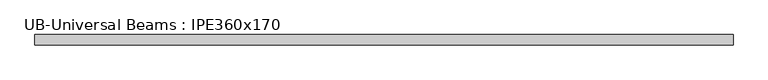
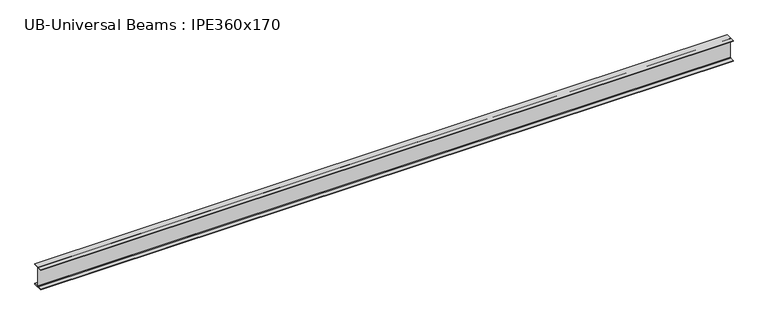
"""IFC4 building model written with IfcOpenShell, lengths in millimetres: beam geometry, UB-Universal Beams : IPE360x170."""

import ifcopenshell
import ifcopenshell.guid

model = None  # the IFC model being written
_history = None  # IfcOwnerHistory: only IFC2X3 demands one
_inside = {}  # id of a spatial element -> (the spatial element, [elements in it])
_under = {}  # id of a project, library or spatial element -> (it, [spatial elements below it])
_declared = {}  # id of a project -> (the project, [libraries it declares])
_typed = {}  # id of a type object -> (the type object, [elements of that type])
_made_of = {}  # id of a material, layer set ... -> (it, [elements and type objects made of it])


def new_model(schema):
    """Start an empty IFC model of exactly this schema.

    Asked for "IFC4X3", IfcOpenShell would pick the latest addendum, in which some entities
    have other attributes; the version numbers below select the first issue.
    IFC2X3 requires an IfcOwnerHistory on every rooted entity: one is made here for all.
    """
    global model, _history
    if schema == "IFC4X3":
        model = ifcopenshell.file(schema_version=(4, 3, 0, 0))
    else:
        model = ifcopenshell.file(schema=schema)
    _inside.clear()
    _under.clear()
    _declared.clear()
    _typed.clear()
    _made_of.clear()
    _history = None
    if model.schema == "IFC2X3":
        org = make("IfcOrganization", Name="unknown")
        user = make(
            "IfcPersonAndOrganization",
            ThePerson=make("IfcPerson", FamilyName="unknown"),
            TheOrganization=org,
        )
        app = make(
            "IfcApplication",
            ApplicationDeveloper=org,
            Version="unknown",
            ApplicationFullName="unknown",
            ApplicationIdentifier="unknown",
        )
        _history = make(
            "IfcOwnerHistory",
            OwningUser=user,
            OwningApplication=app,
            ChangeAction="ADDED",
            CreationDate=0,
        )
    return model


def make(cls, **values):
    """One entity of the class cls with the attributes given. An attribute that is None is left unset."""
    return model.create_entity(
        cls, **{name: value for name, value in values.items() if value is not None}
    )


def rooted(cls, **values):
    """An entity with a GlobalId (a new one), such as an element, a storey or a relation."""
    return make(cls, GlobalId=ifcopenshell.guid.new(), OwnerHistory=_history, **values)


def si_unit(unit_type, name, prefix=None):
    """IfcSIUnit, for example si_unit("LENGTHUNIT", "METRE", prefix="MILLI")."""
    return make("IfcSIUnit", UnitType=unit_type, Prefix=prefix, Name=name)


def assignment(units):
    """IfcUnitAssignment: the units of a project."""
    return None if units is None else make("IfcUnitAssignment", Units=units)


def point(xyz):
    """IfcCartesianPoint."""
    return None if xyz is None else make("IfcCartesianPoint", Coordinates=xyz)


def direction(xyz):
    """IfcDirection."""
    return None if xyz is None else make("IfcDirection", DirectionRatios=xyz)


def frame(location, z_axis=None, x_axis=None):
    """IfcAxis2Placement3D, a coordinate frame: its origin and axes. An axis left out is left unset."""
    return make(
        "IfcAxis2Placement3D",
        Location=point(location),
        Axis=direction(z_axis),
        RefDirection=direction(x_axis),
    )


def frame_2d(location, x_axis=None):
    """IfcAxis2Placement2D, a coordinate frame in the plane: its origin and x axis."""
    return make(
        "IfcAxis2Placement2D", Location=point(location), RefDirection=direction(x_axis)
    )


def origin():
    """The frame at (0, 0, 0) with its axes left unset."""
    return frame((0.0, 0.0, 0.0))


def place(relative_to, where):
    """IfcLocalPlacement: puts the frame where relative to a parent placement (None: the world)."""
    return make(
        "IfcLocalPlacement", PlacementRelTo=relative_to, RelativePlacement=where
    )


def context(
    kind, dimensions, precision=None, world=None, true_north=None, identifier=None
):
    """IfcGeometricRepresentationContext, for example the 3D "Model" context."""
    return make(
        "IfcGeometricRepresentationContext",
        ContextIdentifier=identifier,
        ContextType=kind,
        CoordinateSpaceDimension=dimensions,
        Precision=precision,
        WorldCoordinateSystem=world,
        TrueNorth=true_north,
    )


def project(units=None, contexts=None):
    """IfcProject with its units and contexts."""
    return rooted(
        "IfcProject",
        Name="project",
        RepresentationContexts=contexts,
        UnitsInContext=assignment(units),
    )


def spatial(cls, under=None, at=None, **own):
    """A site, building, storey or space (cls), placed at a placement, below another one or the project."""
    s = rooted(cls, ObjectPlacement=at, **own)
    if under is not None:
        _under.setdefault(under.id(), (under, []))[1].append(s)
    return s


def polyline(points):
    """IfcPolyline through the points."""
    return make("IfcPolyline", Points=[point(p) for p in points])


def circle_curve(where, radius):
    """IfcCircle in the frame where."""
    return make("IfcCircle", Position=where, Radius=radius)


def trimmed(basis, trim1, trim2, sense, master):
    """IfcTrimmedCurve: the piece of a basis curve between two trims."""
    return make(
        "IfcTrimmedCurve",
        BasisCurve=basis,
        Trim1=trim1,
        Trim2=trim2,
        SenseAgreement=sense,
        MasterRepresentation=master,
    )


def segment(curve, same_sense, transition):
    """IfcCompositeCurveSegment."""
    return make(
        "IfcCompositeCurveSegment",
        Transition=transition,
        SameSense=same_sense,
        ParentCurve=curve,
    )


def composite_curve(segments, self_intersect=None):
    """IfcCompositeCurve: segments joined end to end."""
    return make("IfcCompositeCurve", Segments=segments, SelfIntersect=self_intersect)


def outline(outer, holes=None, kind="AREA"):
    """IfcArbitraryClosedProfileDef: a profile drawn as a closed curve; with holes, ...WithVoids."""
    if holes is None:
        return make("IfcArbitraryClosedProfileDef", ProfileType=kind, OuterCurve=outer)
    return make(
        "IfcArbitraryProfileDefWithVoids",
        ProfileType=kind,
        OuterCurve=outer,
        InnerCurves=holes,
    )


def extrude(swept, where, along, depth):
    """IfcExtrudedAreaSolid: the profile swept, set in the frame where, extruded along a direction by depth."""
    return make(
        "IfcExtrudedAreaSolid",
        SweptArea=swept,
        Position=where,
        ExtrudedDirection=direction(along),
        Depth=depth,
    )


def shape(context_of_items, identifier, shape_type, items):
    """IfcShapeRepresentation: the items that make up one representation, for example the "Body"."""
    return make(
        "IfcShapeRepresentation",
        ContextOfItems=context_of_items,
        RepresentationIdentifier=identifier,
        RepresentationType=shape_type,
        Items=items,
    )


def source(mapping_origin, context_of_items, identifier, shape_type, items):
    """IfcRepresentationMap: a shape defined once, which mapped items show again and again."""
    return make(
        "IfcRepresentationMap",
        MappingOrigin=mapping_origin,
        MappedRepresentation=shape(context_of_items, identifier, shape_type, items),
    )


def transform(
    local_origin,
    x_axis=None,
    y_axis=None,
    z_axis=None,
    scale=None,
    scale2=None,
    scale3=None,
    uniform=True,
):
    """IfcCartesianTransformationOperator3D, or its non-uniform kind. x_axis, y_axis, z_axis: its Axis1, 2, 3."""
    if uniform:
        return make(
            "IfcCartesianTransformationOperator3D",
            Axis1=direction(x_axis),
            Axis2=direction(y_axis),
            LocalOrigin=point(local_origin),
            Scale=scale,
            Axis3=direction(z_axis),
        )
    return make(
        "IfcCartesianTransformationOperator3DnonUniform",
        Axis1=direction(x_axis),
        Axis2=direction(y_axis),
        LocalOrigin=point(local_origin),
        Scale=scale,
        Axis3=direction(z_axis),
        Scale2=scale2,
        Scale3=scale3,
    )


def mapped(mapping_source, mapping_target):
    """IfcMappedItem: shows the shape of a source again, moved by a transform."""
    return make(
        "IfcMappedItem", MappingSource=mapping_source, MappingTarget=mapping_target
    )


def made_of(thing, what):
    """Note that an element or type object is made of a material, layer set ...; save() writes the relation."""
    if what is not None:
        _made_of.setdefault(what.id(), (what, []))[1].append(thing)
    return thing


def element(
    cls,
    number,
    at=None,
    inside=None,
    cuts=None,
    type_object=None,
    material=None,
    context=None,
    identifier="Body",
    shape_type=None,
    held_by="IfcProductDefinitionShape",
    body=None,
    shapes=None,
    **own,
):
    """One element of the class cls, such as IfcWall. Its Tag is "e" and its number.

    at: its placement. inside: the storey or other place that contains it. cuts: it is an
    opening in that element (IfcRelVoidsElement). A single representation is given by context,
    identifier, shape_type and body (its items); several are given by shapes. held_by: the class
    of the entity that holds the representations. save() writes the other relations.
    """
    e = rooted(cls, Tag="e%d" % number, ObjectPlacement=at, **own)
    if body is not None:
        shapes = [shape(context, identifier, shape_type, body)]
    if shapes is not None:
        e.Representation = make(held_by, Representations=shapes)
    if inside is not None:
        _inside.setdefault(inside.id(), (inside, []))[1].append(e)
    if cuts is not None:
        rooted(
            "IfcRelVoidsElement", RelatingBuildingElement=cuts, RelatedOpeningElement=e
        )
    if type_object is not None:
        _typed.setdefault(type_object.id(), (type_object, []))[1].append(e)
    return made_of(e, material)


def aggregate(whole, parts):
    """IfcRelAggregates: a whole, such as a stair, and the parts it consists of."""
    return rooted("IfcRelAggregates", RelatingObject=whole, RelatedObjects=parts)


def save(model, path):
    """Write the relations noted so far, then the file.

    IfcRelAggregates (storeys below a building ...), IfcRelContainedInSpatialStructure (elements
    in a storey), IfcRelDefinesByType, IfcRelAssociatesMaterial and IfcRelDeclares: one each for
    every whole, place, type object, material and project.
    """
    for whole, parts in _under.values():
        aggregate(whole, parts)
    for where, things in _inside.values():
        rooted(
            "IfcRelContainedInSpatialStructure",
            RelatedElements=things,
            RelatingStructure=where,
        )
    for kind, things in _typed.values():
        rooted("IfcRelDefinesByType", RelatedObjects=things, RelatingType=kind)
    for what, things in _made_of.values():
        rooted("IfcRelAssociatesMaterial", RelatedObjects=things, RelatingMaterial=what)
    for by, libraries in _declared.values():
        rooted("IfcRelDeclares", RelatingContext=by, RelatedDefinitions=libraries)
    model.write(path)


def ub_universal_beams_ipe360x170_d35104d3(model_context):
    return source(origin(), model_context, "Body", "SweptSolid", [
        extrude(outline(composite_curve([segment(polyline([(85.0, -169.8), (85.0, -180.0), (-85.0, -180.0), (-85.0, -169.8), (-11.9, -169.8)]), True, "CONTINUOUS"), segment(trimmed(circle_curve(frame_2d((-11.9, -160.9)), 8.9), [point((-11.9, -169.8))], [point((-3.0, -160.9))], True, "CARTESIAN"), True, "CONTINUOUS"), segment(polyline([(-3.0, -160.9), (-3.0, 160.9)]), True, "CONTINUOUS"), segment(trimmed(circle_curve(frame_2d((-11.9, 160.9)), 8.9), [point((-3.0, 160.9))], [point((-11.9, 169.8))], True, "CARTESIAN"), True, "CONTINUOUS"), segment(polyline([(-11.9, 169.8), (-85.0, 169.8), (-85.0, 180.0), (85.0, 180.0), (85.0, 169.8), (11.9, 169.8)]), True, "CONTINUOUS"), segment(trimmed(circle_curve(frame_2d((11.9, 160.9)), 8.9), [point((11.9, 169.8))], [point((3.0, 160.9))], True, "CARTESIAN"), True, "CONTINUOUS"), segment(polyline([(3.0, 160.9), (3.0, -160.9)]), True, "CONTINUOUS"), segment(trimmed(circle_curve(frame_2d((11.9, -160.9)), 8.9), [point((3.0, -160.9))], [point((11.9, -169.8))], True, "CARTESIAN"), True, "CONTINUOUS"), segment(polyline([(11.9, -169.8), (85.0, -169.8)]), True, "CONTINUOUS")], self_intersect=False)), frame((-5673.0, 0.0, 0.0), z_axis=(1.0, 0.0, 0.0), x_axis=(0.0, 1.0, 0.0)), (0.0, 0.0, 1.0), 11563.6331121),
    ])


if __name__ == "__main__":
    model = new_model("IFC4")
    model_context = context("Model", 3, world=origin())
    ifc_project = project(units=[si_unit("LENGTHUNIT", "METRE", prefix="MILLI")], contexts=[model_context])
    site = spatial("IfcSite", under=ifc_project)
    building = spatial("IfcBuilding", under=site)
    placement = place(None, origin())
    ub_universal_beams_ipe360x170_shape = ub_universal_beams_ipe360x170_d35104d3(model_context)
    element("IfcBeam", 1, ObjectType="UB-Universal Beams : IPE360x170", at=placement, inside=building, context=model_context, shape_type="MappedRepresentation", body=[
        mapped(ub_universal_beams_ipe360x170_shape, transform((0.0, 0.0, 0.0), x_axis=(1.0, 0.0, 0.0), y_axis=(0.0, 1.0, 0.0), z_axis=(0.0, 0.0, 1.0))),
    ])
    save(model, "model.ifc")
